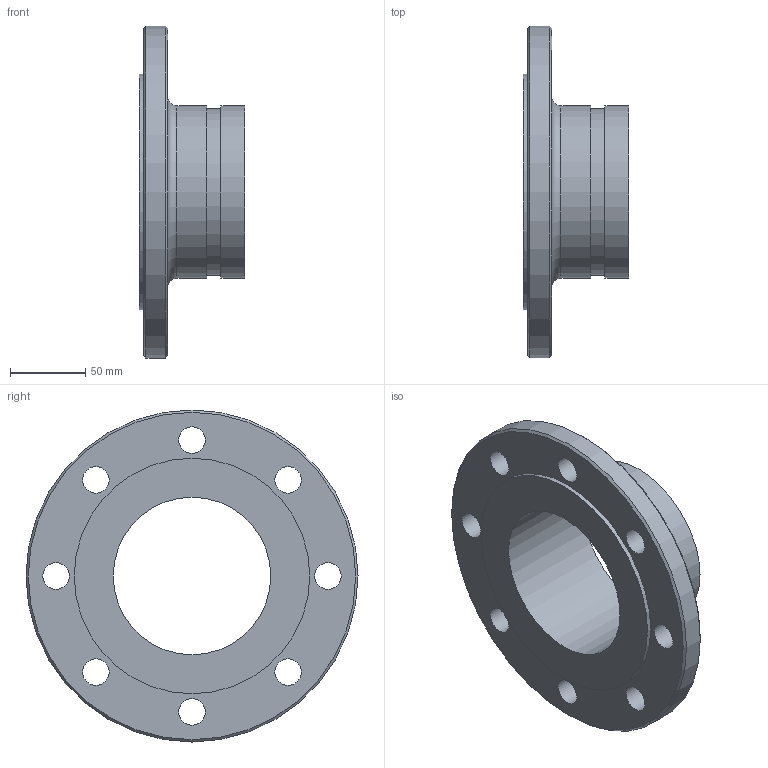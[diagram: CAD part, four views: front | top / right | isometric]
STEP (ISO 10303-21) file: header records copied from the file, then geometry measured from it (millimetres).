
FILE_DESCRIPTION(/* description */ ('VIC FLG ADPTR NIP PN10 RF No 45RE (OGSxFLG)'),/* implementation_level */ '2;1');
FILE_NAME(/* name */ 'C:\Users\vjadhav\OneDrive - Victaulic Company\Desktop\New folder\Victaulic_IPS_Flgd Adptr Nip_PN10 RF_No 45RE (OGSxFLG)\Victaulic_IPS_Flgd Adptr Nip_PN10 RF_No 45RE (OGSxFLG)_4 (100).stp',/* time_stamp */ '2024-04-01T13:02:16+02:00',/* author */ ('jheald'),/* organization */ ('Victaulic'),/* preprocessor_version */ 'ST-DEVELOPER v18.1',/* originating_system */ 'Autodesk Inventor 2020',/* authorisation */ '');
FILE_SCHEMA (('AUTOMOTIVE_DESIGN { 1 0 10303 214 3 1 1 }'));
Length unit declared in the file: inch
Products named in the file (1): 045RE-04.0
Bounding box: 70.1 x 219.99 x 219.99 mm (x, y, z)
Volume: 553227.6 mm3; surface area: 115156.7 mm2
Topology: 1 solids, 1 shells, 23 faces, 62 edges, 45 vertices
Faces by surface type: cylinder 14, plane 6, cone 2, torus 1
Full cylindrical faces by diameter (mm): 17.526 x8, 104.394 x1, 110.084 x1, 114.3 x2, 156.007 x1, 219.989 x1
Entity records: 872 total; most frequent: DIRECTION 156, CARTESIAN_POINT 131, ORIENTED_EDGE 124, AXIS2_PLACEMENT_3D 70, EDGE_CURVE 62, CIRCLE 46, EDGE_LOOP 45, VERTEX_POINT 45
